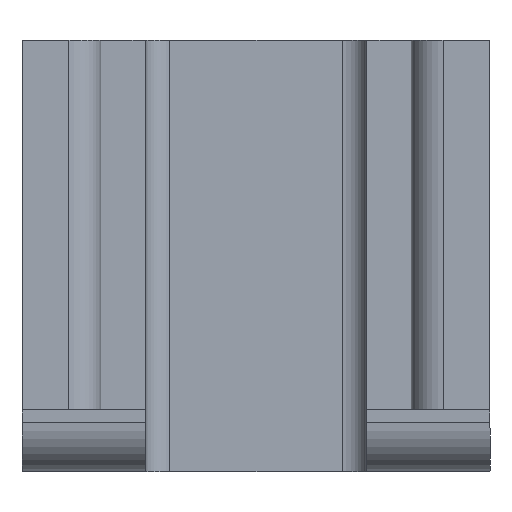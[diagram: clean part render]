
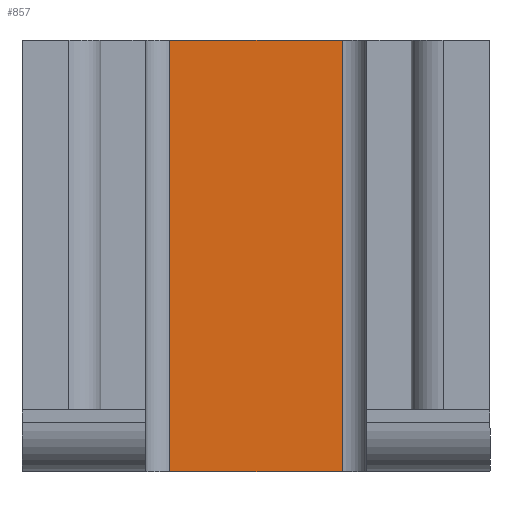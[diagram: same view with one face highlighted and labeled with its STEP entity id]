
A CAD part, front view. The second image highlights one B-rep face of the part: STEP entity #857.
In plain terms, the highlighted planar face has unit normal (0, -1, 0).
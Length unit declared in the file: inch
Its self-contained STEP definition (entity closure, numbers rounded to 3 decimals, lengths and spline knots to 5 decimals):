
#29 = FACE_OUTER_BOUND ( 'NONE', #56, .T. ) ;
#56 = EDGE_LOOP ( 'NONE', ( #946, #124, #903, #728 ) ) ;
#75 = CARTESIAN_POINT ( 'NONE',  ( -0.1378, 0.49, 0.59055 ) ) ;
#110 = VECTOR ( 'NONE', #817, 39.37008 ) ;
#124 = ORIENTED_EDGE ( 'NONE', *, *, #377, .F. ) ;
#125 = CARTESIAN_POINT ( 'NONE',  ( 0.1378, 0.49, -0.87134 ) ) ;
#189 = CARTESIAN_POINT ( 'NONE',  ( -0.1378, 0.49, -0.87134 ) ) ;
#226 = LINE ( 'NONE', #734, #110 ) ;
#252 = DIRECTION ( 'NONE',  ( 0., 0., 1. ) ) ;
#272 = EDGE_CURVE ( 'NONE', #277, #1012, #711, .T. ) ;
#277 = VERTEX_POINT ( 'NONE', #505 ) ;
#304 = EDGE_CURVE ( 'NONE', #1012, #576, #226, .T. ) ;
#343 = VECTOR ( 'NONE', #913, 39.37008 ) ;
#377 = EDGE_CURVE ( 'NONE', #958, #277, #907, .T. ) ;
#399 = EDGE_CURVE ( 'NONE', #958, #576, #944, .T. ) ;
#482 = DIRECTION ( 'NONE',  ( 0., 0., -1. ) ) ;
#505 = CARTESIAN_POINT ( 'NONE',  ( -0.1378, 0.49, -0.09843 ) ) ;
#508 = DIRECTION ( 'NONE',  ( 0., 0., 1. ) ) ;
#569 = DIRECTION ( 'NONE',  ( 0., -1., 0. ) ) ;
#576 = VERTEX_POINT ( 'NONE', #856 ) ;
#664 = CARTESIAN_POINT ( 'NONE',  ( 0.1378, 0.49, -0.09843 ) ) ;
#676 = AXIS2_PLACEMENT_3D ( 'NONE', #720, #569, #482 ) ;
#711 = LINE ( 'NONE', #189, #956 ) ;
#720 = CARTESIAN_POINT ( 'NONE',  ( -0.1378, 0.49, -0.87134 ) ) ;
#728 = ORIENTED_EDGE ( 'NONE', *, *, #304, .F. ) ;
#734 = CARTESIAN_POINT ( 'NONE',  ( -0.1378, 0.49, 0.59055 ) ) ;
#817 = DIRECTION ( 'NONE',  ( 1., 0., 0. ) ) ;
#856 = CARTESIAN_POINT ( 'NONE',  ( 0.1378, 0.49, 0.59055 ) ) ;
#857 = ADVANCED_FACE ( 'NONE', ( #29 ), #969, .T. ) ;
#869 = VECTOR ( 'NONE', #508, 39.37008 ) ;
#903 = ORIENTED_EDGE ( 'NONE', *, *, #399, .T. ) ;
#907 = LINE ( 'NONE', #664, #343 ) ;
#913 = DIRECTION ( 'NONE',  ( -1., 0., 0. ) ) ;
#919 = CARTESIAN_POINT ( 'NONE',  ( 0.1378, 0.49, -0.09843 ) ) ;
#944 = LINE ( 'NONE', #125, #869 ) ;
#946 = ORIENTED_EDGE ( 'NONE', *, *, #272, .F. ) ;
#956 = VECTOR ( 'NONE', #252, 39.37008 ) ;
#958 = VERTEX_POINT ( 'NONE', #919 ) ;
#969 = PLANE ( 'NONE',  #676 ) ;
#1012 = VERTEX_POINT ( 'NONE', #75 ) ;
